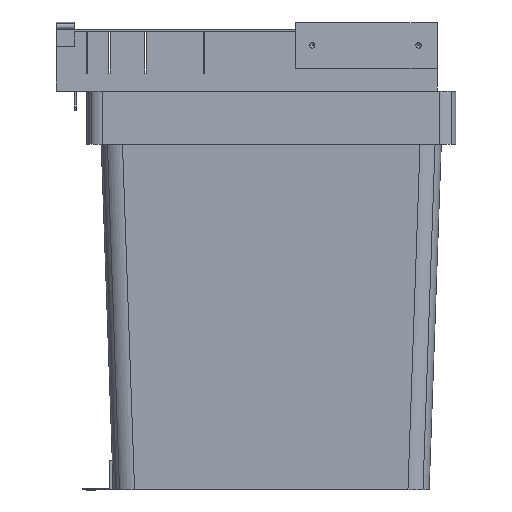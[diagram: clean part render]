
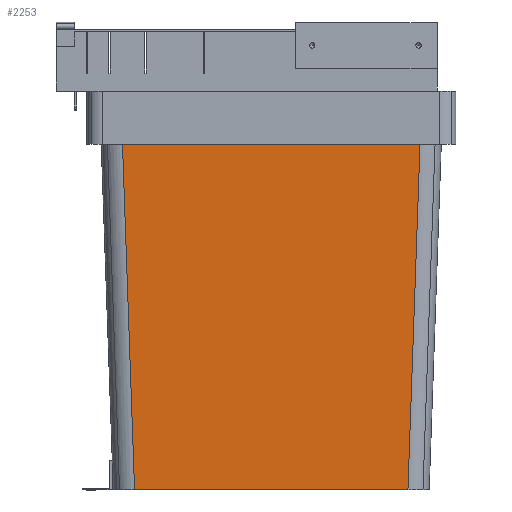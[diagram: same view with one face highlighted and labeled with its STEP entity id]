
A CAD part, left-side view. The second image highlights one B-rep face of the part: STEP entity #2253.
In plain terms, the highlighted planar face has unit normal (-0.999, 0, -0.035).
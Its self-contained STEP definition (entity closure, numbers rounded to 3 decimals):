
#2253=ADVANCED_FACE('',(#4093),#4094,.T.);
#4093=FACE_OUTER_BOUND('',#6740,.T.);
#4094=PLANE('',#6741);
#6740=EDGE_LOOP('',(#8591,#8592,#8593,#8594));
#6741=AXIS2_PLACEMENT_3D('',#8595,#8596,#8597);
#8591=ORIENTED_EDGE('',*,*,#11711,.F.);
#8592=ORIENTED_EDGE('',*,*,#11907,.F.);
#8593=ORIENTED_EDGE('',*,*,#11909,.F.);
#8594=ORIENTED_EDGE('',*,*,#11850,.T.);
#8595=CARTESIAN_POINT('',(-235.0,27.0,0.0));
#8596=DIRECTION('',(-0.999,0.,-0.035));
#8597=DIRECTION('',(0.,-1.0,0.0));
#11711=EDGE_CURVE('',#13489,#13491,#13492,.T.);
#11850=EDGE_CURVE('',#13708,#13491,#13709,.T.);
#11907=EDGE_CURVE('',#13778,#13489,#13780,.T.);
#11909=EDGE_CURVE('',#13708,#13778,#13782,.T.);
#13489=VERTEX_POINT('',#15026);
#13491=VERTEX_POINT('',#15028);
#13492=LINE('',#15029,#15030);
#13708=VERTEX_POINT('',#15305);
#13709=LINE('',#15306,#15307);
#13778=VERTEX_POINT('',#15398);
#13780=LINE('',#15400,#15401);
#13782=LINE('',#15403,#15404);
#15026=CARTESIAN_POINT('',(-235.0,304.012,0.0));
#15028=CARTESIAN_POINT('',(-246.349,315.361,325.0));
#15029=CARTESIAN_POINT('',(-234.844,303.856,-4.477));
#15030=VECTOR('',#17018,10.0);
#15305=CARTESIAN_POINT('',(-246.349,35.639,325.0));
#15306=CARTESIAN_POINT('',(-246.349,101.25,325.0));
#15307=VECTOR('',#17216,10.0);
#15398=CARTESIAN_POINT('',(-235.0,46.988,0.0));
#15400=CARTESIAN_POINT('',(-235.0,13.5,0.0));
#15401=VECTOR('',#17284,10.0);
#15403=CARTESIAN_POINT('',(-234.844,47.144,-4.477));
#15404=VECTOR('',#17285,10.0);
#17018=DIRECTION('',(-0.035,0.035,0.999));
#17216=DIRECTION('',(0.,1.0,0.0));
#17284=DIRECTION('',(0.,1.0,0.0));
#17285=DIRECTION('',(0.035,0.035,-0.999));
